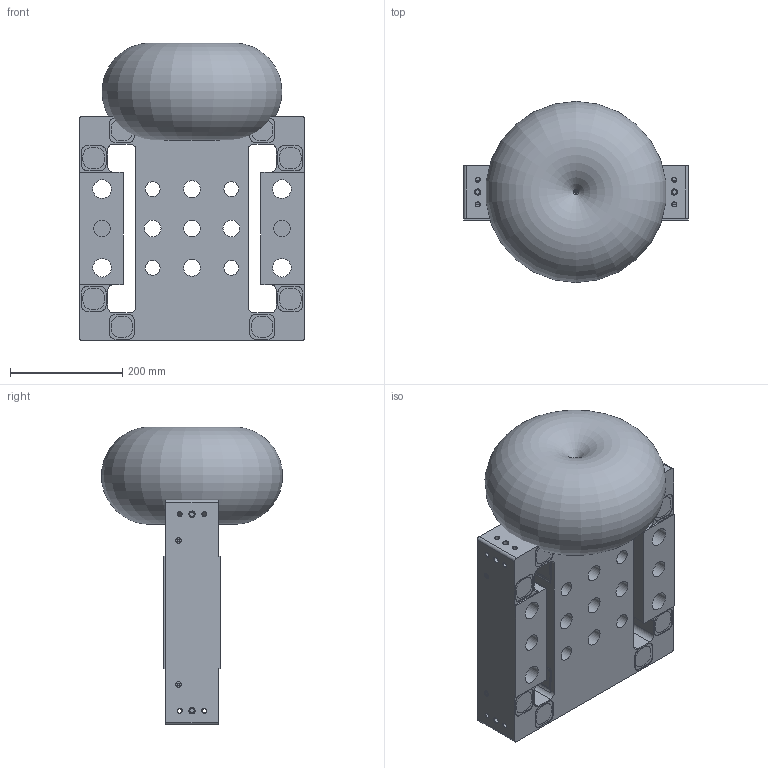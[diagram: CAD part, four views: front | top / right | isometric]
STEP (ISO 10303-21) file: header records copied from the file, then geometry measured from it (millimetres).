
FILE_DESCRIPTION(/* description */ ('Alibre Inc.'),/* implementation_level */ '2;1');
FILE_NAME(/* name */ 'export0',/* time_stamp */ '2016-02-23T09:11:52+01:00',/* author */ (''),/* organization */ (''),/* preprocessor_version */ 'ST-DEVELOPER v14',/* originating_system */ 'Alibre',/* authorisation */ '');
FILE_SCHEMA (('CONFIG_CONTROL_DESIGN'));
Length unit declared in the file: centimetre
Products named in the file (15): ID_1
Bounding box: 400 x 322.33 x 529.76 mm (x, y, z)
Volume: 21030829.8 mm3; surface area: 1303970.6 mm2
Topology: 43 solids, 43 shells, 1544 faces, 3742 edges, 2315 vertices
Faces by surface type: plane 662, cylinder 657, cone 132, torus 93
Full cylindrical faces by diameter (mm): 1.567 x4, 2 x4, 3.8 x4, 4.134 x8, 5 x20, 5.5 x8, 8 x48, 8.3 x8, 10 x8, 10.106 x8, 16 x1, 22 x4, 24 x2, 25 x1, 26 x1, 26.211 x4, 30 x7, 32 x1, 33 x4, 50 x4
Entity records: 36701 total; most frequent: CARTESIAN_POINT 7247, DIRECTION 5576, ORIENTED_EDGE 5402, EDGE_CURVE 2701, AXIS2_PLACEMENT_3D 2340, VERTEX_POINT 1750, FACE_BOUND 1557, EDGE_LOOP 1549
